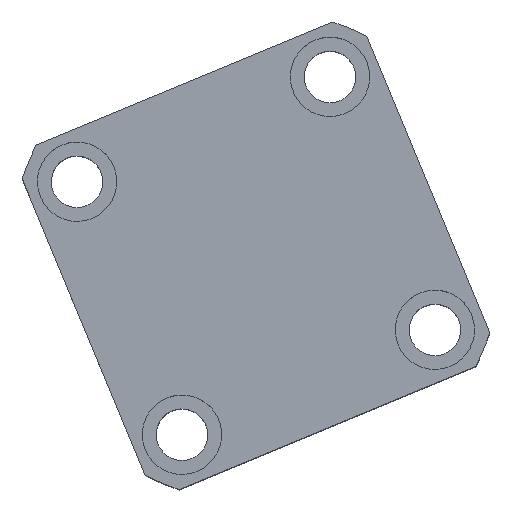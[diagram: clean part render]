
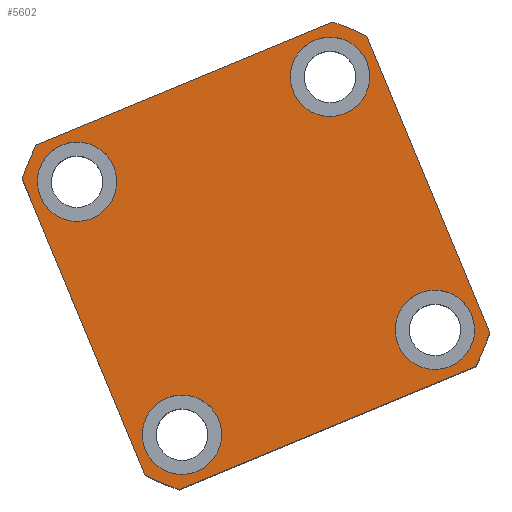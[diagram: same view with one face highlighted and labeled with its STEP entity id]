
A CAD part, top view. The second image highlights one B-rep face of the part: STEP entity #5602.
In plain terms, the highlighted planar face has unit normal (0, 0, 1) as drawn and (0, 0, -1) by its records, which use the part's own axes.
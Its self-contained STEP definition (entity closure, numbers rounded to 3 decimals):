
#320 = FACE_BOUND ( 'NONE', #11810, .T. ) ;
#482 = CARTESIAN_POINT ( 'NONE',  ( 0., 0., 0. ) ) ;
#526 = CARTESIAN_POINT ( 'NONE',  ( 0., 0., 0. ) ) ;
#615 = LINE ( 'NONE', #4037, #7459 ) ;
#665 = AXIS2_PLACEMENT_3D ( 'NONE', #4938, #14494, #6325 ) ;
#703 = DIRECTION ( 'NONE',  ( -1., 0., 0. ) ) ;
#725 = ORIENTED_EDGE ( 'NONE', *, *, #8063, .F. ) ;
#1375 = VERTEX_POINT ( 'NONE', #15601 ) ;
#1482 = VERTEX_POINT ( 'NONE', #7469 ) ;
#1814 = CARTESIAN_POINT ( 'NONE',  ( 34.5, 34.5, 0. ) ) ;
#1852 = CARTESIAN_POINT ( 'NONE',  ( -47., 40.435, 0. ) ) ;
#1857 = DIRECTION ( 'NONE',  ( 1., 0., 0. ) ) ;
#2506 = DIRECTION ( 'NONE',  ( 1., 0., 0. ) ) ;
#2555 = VERTEX_POINT ( 'NONE', #3490 ) ;
#2896 = EDGE_CURVE ( 'NONE', #5599, #15926, #17422, .T. ) ;
#2919 = ORIENTED_EDGE ( 'NONE', *, *, #7383, .F. ) ;
#2929 = DIRECTION ( 'NONE',  ( 0., 0., 1. ) ) ;
#3001 = EDGE_CURVE ( 'NONE', #5436, #5599, #16989, .T. ) ;
#3186 = DIRECTION ( 'NONE',  ( -1., 0., 0. ) ) ;
#3273 = CIRCLE ( 'NONE', #5843, 10. ) ;
#3287 = VERTEX_POINT ( 'NONE', #9134 ) ;
#3306 = CARTESIAN_POINT ( 'NONE',  ( -24.5, -34.5, 0. ) ) ;
#3332 = CARTESIAN_POINT ( 'NONE',  ( -47., -40.435, 0. ) ) ;
#3340 = EDGE_LOOP ( 'NONE', ( #14620, #8935 ) ) ;
#3490 = CARTESIAN_POINT ( 'NONE',  ( -40.435, 47., 0. ) ) ;
#3513 = VERTEX_POINT ( 'NONE', #5197 ) ;
#3530 = DIRECTION ( 'NONE',  ( 0., 0., -1. ) ) ;
#3570 = ORIENTED_EDGE ( 'NONE', *, *, #10407, .F. ) ;
#3600 = EDGE_LOOP ( 'NONE', ( #4161, #16201 ) ) ;
#3727 = VERTEX_POINT ( 'NONE', #4482 ) ;
#3866 = CARTESIAN_POINT ( 'NONE',  ( -47., -47., 0. ) ) ;
#4037 = CARTESIAN_POINT ( 'NONE',  ( -47., 47., 0. ) ) ;
#4161 = ORIENTED_EDGE ( 'NONE', *, *, #8817, .F. ) ;
#4366 = DIRECTION ( 'NONE',  ( 0., 0., -1. ) ) ;
#4482 = CARTESIAN_POINT ( 'NONE',  ( 40.435, -47., 0. ) ) ;
#4556 = CARTESIAN_POINT ( 'NONE',  ( -40.435, -47., 0. ) ) ;
#4703 = DIRECTION ( 'NONE',  ( 0., 0., 1. ) ) ;
#4938 = CARTESIAN_POINT ( 'NONE',  ( -34.5, -34.5, 0. ) ) ;
#4972 = CARTESIAN_POINT ( 'NONE',  ( 47., -40.435, 0. ) ) ;
#5024 = DIRECTION ( 'NONE',  ( 0., 1., 0. ) ) ;
#5033 = DIRECTION ( 'NONE',  ( 0., 0., 1. ) ) ;
#5067 = EDGE_CURVE ( 'NONE', #15908, #15599, #8878, .T. ) ;
#5197 = CARTESIAN_POINT ( 'NONE',  ( 47., 40.435, 0. ) ) ;
#5436 = VERTEX_POINT ( 'NONE', #1852 ) ;
#5492 = DIRECTION ( 'NONE',  ( 0., 0., 1. ) ) ;
#5510 = EDGE_CURVE ( 'NONE', #1375, #7004, #7597, .T. ) ;
#5599 = VERTEX_POINT ( 'NONE', #3332 ) ;
#5602 = ADVANCED_FACE ( 'NONE', ( #320, #14427, #17640, #14003, #10369 ), #12887, .F. ) ;
#5650 = ORIENTED_EDGE ( 'NONE', *, *, #11220, .F. ) ;
#5734 = EDGE_CURVE ( 'NONE', #17490, #10616, #6317, .T. ) ;
#5843 = AXIS2_PLACEMENT_3D ( 'NONE', #6621, #16179, #7994 ) ;
#6083 = VECTOR ( 'NONE', #8560, 1000. ) ;
#6317 = CIRCLE ( 'NONE', #665, 10. ) ;
#6325 = DIRECTION ( 'NONE',  ( -1., 0., 0. ) ) ;
#6517 = AXIS2_PLACEMENT_3D ( 'NONE', #12551, #4366, #13918 ) ;
#6621 = CARTESIAN_POINT ( 'NONE',  ( -34.5, 34.5, 0. ) ) ;
#6937 = CARTESIAN_POINT ( 'NONE',  ( -34.5, -34.5, 0. ) ) ;
#7004 = VERTEX_POINT ( 'NONE', #16820 ) ;
#7099 = AXIS2_PLACEMENT_3D ( 'NONE', #13676, #5492, #15049 ) ;
#7135 = AXIS2_PLACEMENT_3D ( 'NONE', #11111, #2929, #12496 ) ;
#7144 = CIRCLE ( 'NONE', #8915, 10. ) ;
#7219 = ORIENTED_EDGE ( 'NONE', *, *, #13036, .F. ) ;
#7341 = CARTESIAN_POINT ( 'NONE',  ( 34.5, 34.5, 0. ) ) ;
#7383 = EDGE_CURVE ( 'NONE', #11161, #3513, #15906, .T. ) ;
#7459 = VECTOR ( 'NONE', #13581, 1000. ) ;
#7469 = CARTESIAN_POINT ( 'NONE',  ( 40.435, 47., 0. ) ) ;
#7597 = CIRCLE ( 'NONE', #9253, 10. ) ;
#7890 = ORIENTED_EDGE ( 'NONE', *, *, #8820, .F. ) ;
#7994 = DIRECTION ( 'NONE',  ( -1., 0., 0. ) ) ;
#8063 = EDGE_CURVE ( 'NONE', #2555, #5436, #11613, .T. ) ;
#8310 = DIRECTION ( 'NONE',  ( -1., 0., 0. ) ) ;
#8404 = EDGE_CURVE ( 'NONE', #3287, #16931, #7144, .T. ) ;
#8560 = DIRECTION ( 'NONE',  ( 0., -1., 0. ) ) ;
#8649 = VECTOR ( 'NONE', #5024, 1000. ) ;
#8714 = DIRECTION ( 'NONE',  ( -1., 0., 0. ) ) ;
#8817 = EDGE_CURVE ( 'NONE', #15599, #15908, #3273, .T. ) ;
#8820 = EDGE_CURVE ( 'NONE', #15926, #3727, #17383, .T. ) ;
#8878 = CIRCLE ( 'NONE', #6517, 10. ) ;
#8889 = ORIENTED_EDGE ( 'NONE', *, *, #5510, .F. ) ;
#8894 = DIRECTION ( 'NONE',  ( 0., 0., -1. ) ) ;
#8915 = AXIS2_PLACEMENT_3D ( 'NONE', #17084, #8894, #703 ) ;
#8935 = ORIENTED_EDGE ( 'NONE', *, *, #5734, .F. ) ;
#9134 = CARTESIAN_POINT ( 'NONE',  ( 44.5, -34.5, 0. ) ) ;
#9253 = AXIS2_PLACEMENT_3D ( 'NONE', #7341, #16910, #8714 ) ;
#9731 = AXIS2_PLACEMENT_3D ( 'NONE', #482, #10046, #1857 ) ;
#9837 = AXIS2_PLACEMENT_3D ( 'NONE', #6937, #16493, #8310 ) ;
#10004 = EDGE_LOOP ( 'NONE', ( #5650, #2919, #17089, #7890, #10275, #11145, #725, #11639 ) ) ;
#10046 = DIRECTION ( 'NONE',  ( 0., 0., 1. ) ) ;
#10275 = ORIENTED_EDGE ( 'NONE', *, *, #2896, .F. ) ;
#10369 = FACE_OUTER_BOUND ( 'NONE', #10004, .T. ) ;
#10407 = EDGE_CURVE ( 'NONE', #7004, #1375, #10647, .T. ) ;
#10616 = VERTEX_POINT ( 'NONE', #15429 ) ;
#10647 = CIRCLE ( 'NONE', #13382, 10. ) ;
#10688 = EDGE_LOOP ( 'NONE', ( #7219, #11661 ) ) ;
#10730 = CARTESIAN_POINT ( 'NONE',  ( -44.5, 34.5, 0. ) ) ;
#11079 = CIRCLE ( 'NONE', #9837, 10. ) ;
#11111 = CARTESIAN_POINT ( 'NONE',  ( 0., 0., 0. ) ) ;
#11145 = ORIENTED_EDGE ( 'NONE', *, *, #3001, .F. ) ;
#11161 = VERTEX_POINT ( 'NONE', #4972 ) ;
#11216 = AXIS2_PLACEMENT_3D ( 'NONE', #13216, #5033, #14587 ) ;
#11220 = EDGE_CURVE ( 'NONE', #3513, #1482, #13002, .T. ) ;
#11367 = DIRECTION ( 'NONE',  ( 0., 0., -1. ) ) ;
#11507 = CIRCLE ( 'NONE', #7099, 62. ) ;
#11613 = CIRCLE ( 'NONE', #9731, 62. ) ;
#11635 = CARTESIAN_POINT ( 'NONE',  ( 24.5, -34.5, 0. ) ) ;
#11639 = ORIENTED_EDGE ( 'NONE', *, *, #17140, .F. ) ;
#11661 = ORIENTED_EDGE ( 'NONE', *, *, #8404, .F. ) ;
#11706 = CARTESIAN_POINT ( 'NONE',  ( 34.5, -34.5, 0. ) ) ;
#11810 = EDGE_LOOP ( 'NONE', ( #3570, #8889 ) ) ;
#12001 = AXIS2_PLACEMENT_3D ( 'NONE', #11706, #3530, #13085 ) ;
#12496 = DIRECTION ( 'NONE',  ( 1., 0., 0. ) ) ;
#12551 = CARTESIAN_POINT ( 'NONE',  ( -34.5, 34.5, 0. ) ) ;
#12887 = PLANE ( 'NONE',  #14747 ) ;
#13002 = CIRCLE ( 'NONE', #11216, 62. ) ;
#13036 = EDGE_CURVE ( 'NONE', #16931, #3287, #17053, .T. ) ;
#13085 = DIRECTION ( 'NONE',  ( -1., 0., 0. ) ) ;
#13207 = CARTESIAN_POINT ( 'NONE',  ( 47., 47., 0. ) ) ;
#13216 = CARTESIAN_POINT ( 'NONE',  ( 0., 0., 0. ) ) ;
#13382 = AXIS2_PLACEMENT_3D ( 'NONE', #1814, #11367, #3186 ) ;
#13581 = DIRECTION ( 'NONE',  ( -1., 0., 0. ) ) ;
#13622 = EDGE_CURVE ( 'NONE', #3727, #11161, #11507, .T. ) ;
#13676 = CARTESIAN_POINT ( 'NONE',  ( 0., 0., 0. ) ) ;
#13730 = EDGE_CURVE ( 'NONE', #10616, #17490, #11079, .T. ) ;
#13737 = VECTOR ( 'NONE', #2506, 1000. ) ;
#13782 = CARTESIAN_POINT ( 'NONE',  ( -24.5, 34.5, 0. ) ) ;
#13918 = DIRECTION ( 'NONE',  ( -1., 0., 0. ) ) ;
#14003 = FACE_BOUND ( 'NONE', #3600, .T. ) ;
#14254 = DIRECTION ( 'NONE',  ( 1., 0., 0. ) ) ;
#14427 = FACE_BOUND ( 'NONE', #3340, .T. ) ;
#14494 = DIRECTION ( 'NONE',  ( 0., 0., -1. ) ) ;
#14587 = DIRECTION ( 'NONE',  ( 1., 0., 0. ) ) ;
#14620 = ORIENTED_EDGE ( 'NONE', *, *, #13730, .F. ) ;
#14747 = AXIS2_PLACEMENT_3D ( 'NONE', #526, #4703, #14254 ) ;
#15049 = DIRECTION ( 'NONE',  ( 1., 0., 0. ) ) ;
#15429 = CARTESIAN_POINT ( 'NONE',  ( -44.5, -34.5, 0. ) ) ;
#15599 = VERTEX_POINT ( 'NONE', #10730 ) ;
#15601 = CARTESIAN_POINT ( 'NONE',  ( 44.5, 34.5, 0. ) ) ;
#15906 = LINE ( 'NONE', #13207, #8649 ) ;
#15908 = VERTEX_POINT ( 'NONE', #13782 ) ;
#15926 = VERTEX_POINT ( 'NONE', #4556 ) ;
#16179 = DIRECTION ( 'NONE',  ( 0., 0., -1. ) ) ;
#16201 = ORIENTED_EDGE ( 'NONE', *, *, #5067, .F. ) ;
#16493 = DIRECTION ( 'NONE',  ( 0., 0., -1. ) ) ;
#16753 = CARTESIAN_POINT ( 'NONE',  ( -47., 47., 0. ) ) ;
#16820 = CARTESIAN_POINT ( 'NONE',  ( 24.5, 34.5, 0. ) ) ;
#16910 = DIRECTION ( 'NONE',  ( 0., 0., -1. ) ) ;
#16931 = VERTEX_POINT ( 'NONE', #11635 ) ;
#16989 = LINE ( 'NONE', #16753, #6083 ) ;
#17053 = CIRCLE ( 'NONE', #12001, 10. ) ;
#17084 = CARTESIAN_POINT ( 'NONE',  ( 34.5, -34.5, 0. ) ) ;
#17089 = ORIENTED_EDGE ( 'NONE', *, *, #13622, .F. ) ;
#17140 = EDGE_CURVE ( 'NONE', #1482, #2555, #615, .T. ) ;
#17383 = LINE ( 'NONE', #3866, #13737 ) ;
#17422 = CIRCLE ( 'NONE', #7135, 62. ) ;
#17490 = VERTEX_POINT ( 'NONE', #3306 ) ;
#17640 = FACE_BOUND ( 'NONE', #10688, .T. ) ;
